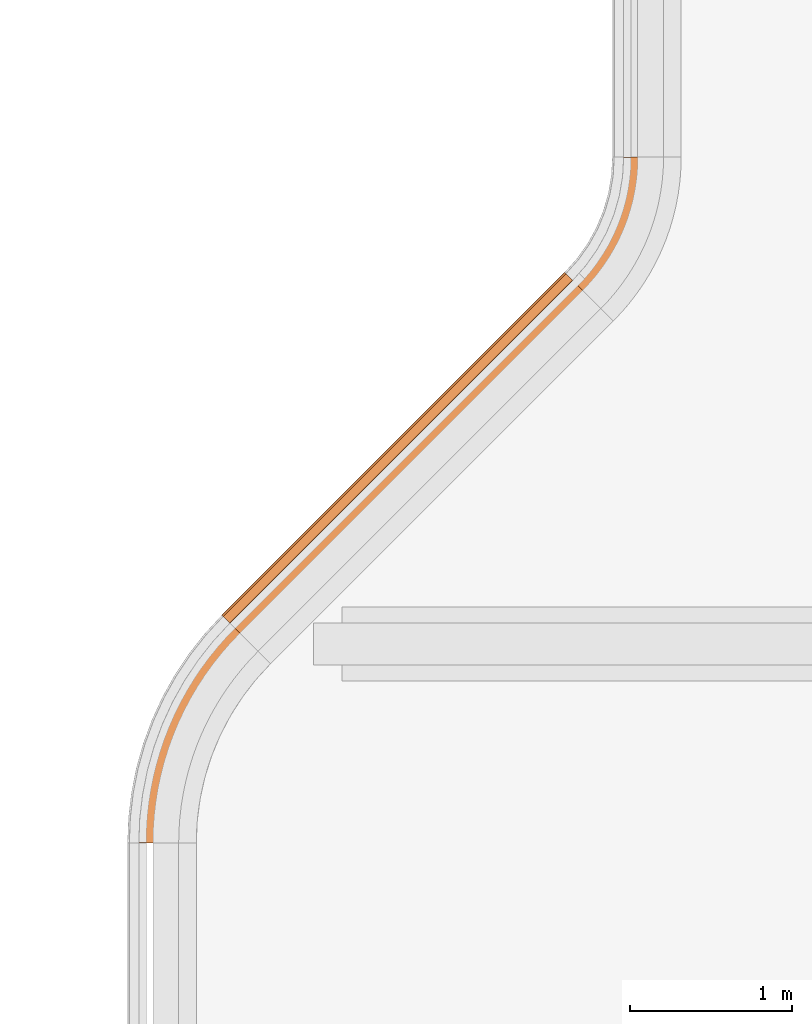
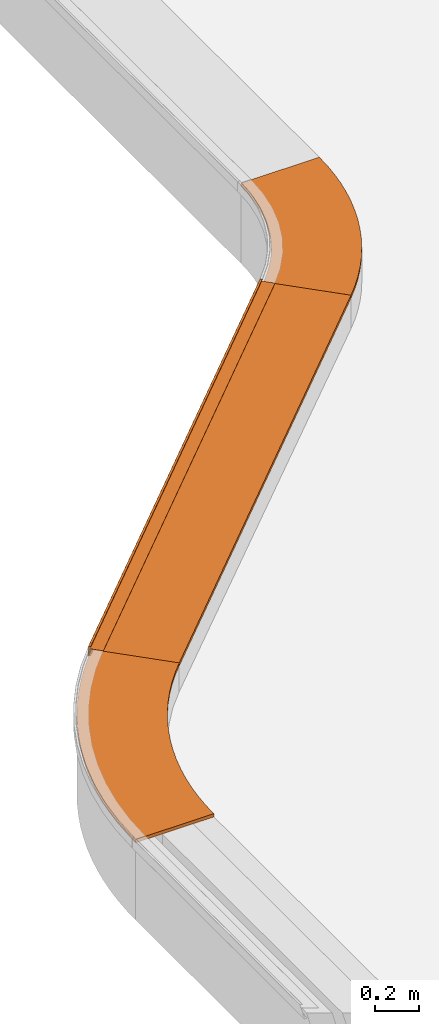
# One storey, part 95 of 128: 5 proxies.
"""IFC2X3 building model written with IfcOpenShell, lengths in millimetres."""

from ifc_helpers import new_model, entity, si_unit, converted_unit, derived_unit, direction, frame, frame_2d, origin, place, context, subcontext, project, spatial, polyline, circle_curve, parameter, trimmed, segment, composite_curve, rectangle, outline, extrude, source, transform, mapped, material, type_object, type_shapes, element, save


model = new_model("IFC2X3")

# Units and contexts
model_context = context("Model", 3, precision=0.01, world=origin(), true_north=direction((6.123031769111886e-17, 1.0)))
body_context = subcontext(model_context, "Body", "Model", "MODEL_VIEW")
ifc_project = project(units=[si_unit("LENGTHUNIT", "METRE", prefix="MILLI"), si_unit("AREAUNIT", "SQUARE_METRE"), si_unit("VOLUMEUNIT", "CUBIC_METRE"), converted_unit("PLANEANGLEUNIT", "DEGREE", entity("IfcRatioMeasure", 0.017453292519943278), si_unit("PLANEANGLEUNIT", "RADIAN"), dimensions=[0, 0, 0, 0, 0, 0, 0]), si_unit("MASSUNIT", "GRAM", prefix="KILO"), derived_unit("MASSDENSITYUNIT", [(si_unit("MASSUNIT", "GRAM", prefix="KILO"), 1), (si_unit("LENGTHUNIT", "METRE"), -3)]), derived_unit("IONCONCENTRATIONUNIT", [(si_unit("MASSUNIT", "GRAM", prefix="KILO"), 1), (si_unit("LENGTHUNIT", "METRE"), -3)]), derived_unit("MOMENTOFINERTIAUNIT", [(si_unit("LENGTHUNIT", "METRE"), 4)]), si_unit("TIMEUNIT", "SECOND"), si_unit("FREQUENCYUNIT", "HERTZ"), si_unit("THERMODYNAMICTEMPERATUREUNIT", "DEGREE_CELSIUS"), derived_unit("THERMALTRANSMITTANCEUNIT", [(si_unit("MASSUNIT", "GRAM", prefix="KILO"), 1), (si_unit("THERMODYNAMICTEMPERATUREUNIT", "KELVIN"), -1), (si_unit("TIMEUNIT", "SECOND"), -3)]), derived_unit("THERMALCONDUCTANCEUNIT", [(si_unit("MASSUNIT", "GRAM", prefix="KILO"), 1), (si_unit("THERMODYNAMICTEMPERATUREUNIT", "KELVIN"), -1), (si_unit("TIMEUNIT", "SECOND"), -3), (si_unit("LENGTHUNIT", "METRE"), 1)]), derived_unit("VOLUMETRICFLOWRATEUNIT", [(si_unit("LENGTHUNIT", "METRE"), 3), (si_unit("TIMEUNIT", "SECOND"), -1)]), derived_unit("MASSFLOWRATEUNIT", [(si_unit("MASSUNIT", "GRAM", prefix="KILO"), 1), (si_unit("TIMEUNIT", "SECOND"), -1)]), derived_unit("ROTATIONALFREQUENCYUNIT", [(si_unit("TIMEUNIT", "SECOND"), -1)]), si_unit("ELECTRICCURRENTUNIT", "AMPERE"), si_unit("ELECTRICVOLTAGEUNIT", "VOLT"), si_unit("POWERUNIT", "WATT"), si_unit("FORCEUNIT", "NEWTON", prefix="KILO"), si_unit("ILLUMINANCEUNIT", "LUX"), si_unit("LUMINOUSFLUXUNIT", "LUMEN"), si_unit("LUMINOUSINTENSITYUNIT", "CANDELA"), derived_unit("USERDEFINED", [(si_unit("MASSUNIT", "GRAM", prefix="KILO"), -1), (si_unit("LENGTHUNIT", "METRE"), -2), (si_unit("TIMEUNIT", "SECOND"), 3), (si_unit("LUMINOUSFLUXUNIT", "LUMEN"), 1)]), derived_unit("USERDEFINED", [(si_unit("MASSUNIT", "GRAM", prefix="KILO"), 1), (si_unit("TIMEUNIT", "SECOND"), -3), (si_unit("LENGTHUNIT", "METRE"), 3), (si_unit("ELECTRICCURRENTUNIT", "AMPERE"), -2)]), derived_unit("SOUNDPOWERUNIT", [(si_unit("MASSUNIT", "GRAM", prefix="KILO"), 1), (si_unit("TIMEUNIT", "SECOND"), -3), (si_unit("LENGTHUNIT", "METRE"), 2)]), derived_unit("SOUNDPRESSUREUNIT", [(si_unit("MASSUNIT", "GRAM", prefix="KILO"), 1), (si_unit("LENGTHUNIT", "METRE"), -1), (si_unit("TIMEUNIT", "SECOND"), -2)]), derived_unit("LINEARVELOCITYUNIT", [(si_unit("LENGTHUNIT", "METRE"), 1), (si_unit("TIMEUNIT", "SECOND"), -1)]), si_unit("PRESSUREUNIT", "PASCAL"), derived_unit("USERDEFINED", [(si_unit("MASSUNIT", "GRAM", prefix="KILO"), 1), (si_unit("LENGTHUNIT", "METRE"), -2), (si_unit("TIMEUNIT", "SECOND"), -2)]), derived_unit("LINEARFORCEUNIT", [(si_unit("MASSUNIT", "GRAM", prefix="KILO"), 1), (si_unit("TIMEUNIT", "SECOND"), -2)]), derived_unit("PLANARFORCEUNIT", [(si_unit("MASSUNIT", "GRAM", prefix="KILO"), 1), (si_unit("LENGTHUNIT", "METRE"), -1), (si_unit("TIMEUNIT", "SECOND"), -2)]), derived_unit("SPECIFICHEATCAPACITYUNIT", [(si_unit("THERMODYNAMICTEMPERATUREUNIT", "KELVIN"), -1), (si_unit("LENGTHUNIT", "METRE"), 2), (si_unit("TIMEUNIT", "SECOND"), -2)]), derived_unit("HEATINGVALUEUNIT", [(si_unit("LENGTHUNIT", "METRE"), 2), (si_unit("TIMEUNIT", "SECOND"), -2)]), derived_unit("VAPORPERMEABILITYUNIT", [(si_unit("LENGTHUNIT", "METRE"), -1), (si_unit("TIMEUNIT", "SECOND"), 1)]), derived_unit("DYNAMICVISCOSITYUNIT", [(si_unit("MASSUNIT", "GRAM", prefix="KILO"), 1), (si_unit("TIMEUNIT", "SECOND"), -1), (si_unit("LENGTHUNIT", "METRE"), -1)]), derived_unit("THERMALEXPANSIONCOEFFICIENTUNIT", [(si_unit("THERMODYNAMICTEMPERATUREUNIT", "KELVIN"), -1)]), derived_unit("MODULUSOFELASTICITYUNIT", [(si_unit("MASSUNIT", "GRAM", prefix="KILO"), 1), (si_unit("LENGTHUNIT", "METRE"), -1), (si_unit("TIMEUNIT", "SECOND"), -2)]), derived_unit("ISOTHERMALMOISTURECAPACITYUNIT", [(si_unit("LENGTHUNIT", "METRE"), 3), (si_unit("MASSUNIT", "GRAM", prefix="KILO"), -1)]), derived_unit("MOISTUREDIFFUSIVITYUNIT", [(si_unit("TIMEUNIT", "SECOND"), -1), (si_unit("LENGTHUNIT", "METRE"), 2)])], contexts=[model_context])

# Site, building, storey
site_placement = place(None, frame((0.0, 300.0, 0.0)))
site = spatial("IfcSite", under=ifc_project, at=site_placement, Name="<Kadastrale nummers>", CompositionType="ELEMENT")
building_placement = place(site_placement, origin())
building = spatial("IfcBuilding", under=site, at=building_placement, CompositionType="ELEMENT")
storey_placement = place(building_placement, frame((0.0, 0.0, 3560.0000331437)))
storey = spatial("IfcBuildingStorey", under=building, at=storey_placement, Name="01 eerste verdieping", CompositionType="ELEMENT", Elevation=3560.0000331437)

# Proxies
ifc_material_1 = material(Name="ISR_Multiplex")
building_element_proxy_type_1 = type_object("IfcBuildingElementProxyType", Name="NLRS_42_GM_WBP_plaat_gebogen:18x430", PredefinedType="NOTDEFINED", material=ifc_material_1)
shared_shape_1 = source(origin(), body_context, "Body", "SweptSolid", [
    extrude(outline(composite_curve([segment(polyline([(-463.78372195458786, -625.9662780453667), (-54.78372195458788, -625.966278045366)]), True, "CONTINUOUS"), segment(trimmed(circle_curve(frame_2d((1511.216278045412, -625.9662780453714), x_axis=(-0.7071067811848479, 0.7071067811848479)), 1565.9999999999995), [parameter(0.0)], [parameter(44.999999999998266)], True, "PARAMETER"), False, "CONTINUOUS"), segment(polyline([(403.8870587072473, 481.36294129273), (114.68038520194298, 770.569614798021)]), True, "CONTINUOUS"), segment(trimmed(circle_curve(frame_2d((1511.216278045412, -625.9662780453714), x_axis=(-0.7071067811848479, 0.7071067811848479)), 1975.0000000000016), [parameter(0.0)], [parameter(44.999999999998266)], True, "PARAMETER"), True, "CONTINUOUS")], self_intersect=False)), frame((28888.820638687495, 30295.22875985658, 4075.0)), (0.0, 0.0, 1.0), 18.000000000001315),
])
type_shapes(building_element_proxy_type_1, [shared_shape_1])
proxy_1_placement = place(storey_placement, frame((0.0, 0.0, -3560.0000331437)))
element("IfcBuildingElementProxy", 1, at=proxy_1_placement, inside=storey, type_object=building_element_proxy_type_1, material=ifc_material_1, Name="NLRS_42_GM_WBP_plaat_gebogen:18x430", ObjectType="NLRS_42_GM_WBP_plaat_gebogen:18x430", context=body_context, shape_type="MappedRepresentation", body=[
    mapped(shared_shape_1, transform((0.0, 0.0, 0.0), scale=1.0)),
])
building_element_proxy_type_2 = type_object("IfcBuildingElementProxyType", Name="NLRS_42_GM_WBP_plaat:18x409", PredefinedType="NOTDEFINED", material=ifc_material_1)
shared_shape_2 = source(origin(), body_context, "Body", "SweptSolid", [
    extrude(rectangle(XDim=2999.9999999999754, YDim=408.9999999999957, at=frame_2d((1.5916157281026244e-12, 1.5631940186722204e-12), x_axis=(1.0, 0.0))), frame((30208.764532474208, 31981.85520962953, 4075.0), z_axis=(0.0, 0.0, 1.0), x_axis=(-0.707106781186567, -0.707106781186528, 0.0)), (0.0, 0.0, 1.0), 18.000000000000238),
])
type_shapes(building_element_proxy_type_2, [shared_shape_2])
proxy_2_placement = place(storey_placement, frame((0.0, 0.0, -3560.0000331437)))
element("IfcBuildingElementProxy", 2, at=proxy_2_placement, inside=storey, type_object=building_element_proxy_type_2, material=ifc_material_1, Name="NLRS_42_GM_WBP_plaat:18x409", ObjectType="NLRS_42_GM_WBP_plaat:18x409", context=body_context, shape_type="MappedRepresentation", body=[
    mapped(shared_shape_2, transform((0.0, 0.0, 0.0), scale=1.0)),
])
building_element_proxy_type_3 = type_object("IfcBuildingElementProxyType", Name="NLRS_42_GM_WBP_plaat_gebogen:18x430", PredefinedType="NOTDEFINED", material=ifc_material_1)
shared_shape_3 = source(origin(), body_context, "Body", "SweptSolid", [
    extrude(outline(composite_curve([segment(trimmed(circle_curve(frame_2d((-1049.4438937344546, -434.6938937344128), x_axis=(1.0, 0.0)), 1434.0000000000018), [parameter(0.0)], [parameter(44.99999999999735)], True, "PARAMETER"), True, "CONTINUOUS"), segment(polyline([(-35.452769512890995, 579.2972304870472), (-324.65944301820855, 290.0905569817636)]), True, "CONTINUOUS"), segment(trimmed(circle_curve(frame_2d((-1049.4438937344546, -434.6938937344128), x_axis=(1.0, 0.0)), 1024.9999999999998), [parameter(0.0)], [parameter(44.99999999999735)], True, "PARAMETER"), False, "CONTINUOUS"), segment(polyline([(-24.443893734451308, -434.6938937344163), (384.5561062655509, -434.69389373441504)]), True, "CONTINUOUS")], self_intersect=False)), frame((31449.443893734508, 33477.209275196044, 4075.0), z_axis=(0.0, 0.0, 1.0), x_axis=(0.7071067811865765, -0.7071067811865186, 0.0)), (0.0, 0.0, 1.0), 18.00000000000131),
])
type_shapes(building_element_proxy_type_3, [shared_shape_3])
proxy_3_placement = place(storey_placement, frame((0.0, 0.0, -3560.0000331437)))
element("IfcBuildingElementProxy", 3, at=proxy_3_placement, inside=storey, type_object=building_element_proxy_type_3, material=ifc_material_1, Name="NLRS_42_GM_WBP_plaat_gebogen:18x430", ObjectType="NLRS_42_GM_WBP_plaat_gebogen:18x430", context=body_context, shape_type="MappedRepresentation", body=[
    mapped(shared_shape_3, transform((0.0, 0.0, 0.0), scale=1.0)),
])
ifc_material_2 = material(Name="STAAL_RAL 7006")
building_element_proxy_type_4 = type_object("IfcBuildingElementProxyType", Name="NLRS_42_GM_WPB_dakrand_gen_ISR:dakrand_gen", PredefinedType="NOTDEFINED", material=ifc_material_2)
shared_shape_4 = source(origin(), body_context, "Body", "SweptSolid", [
    extrude(outline(composite_curve([segment(trimmed(circle_curve(frame_2d((14.558406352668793, -7.057262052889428), x_axis=(-1.0, 0.0)), 1.0000000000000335), [parameter(359.9999999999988)], [parameter(89.99999999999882)], True, "PARAMETER"), False, "CONTINUOUS"), segment(polyline([(13.558406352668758, -7.057262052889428), (13.558406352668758, 55.442737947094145)]), True, "CONTINUOUS"), segment(polyline([(13.558406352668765, 55.44273794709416), (12.55840635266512, 59.942737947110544)]), True, "CONTINUOUS"), segment(trimmed(circle_curve(frame_2d((12.05840635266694, 59.94273794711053), x_axis=(-1.0, 0.0)), 0.499999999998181), [parameter(180.00000000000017)], [parameter(0.0)], True, "PARAMETER"), True, "CONTINUOUS"), segment(polyline([(11.558406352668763, 59.94273794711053), (11.558406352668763, -2.057262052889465)]), True, "CONTINUOUS"), segment(trimmed(circle_curve(frame_2d((10.558406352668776, -2.0572620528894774), x_axis=(0.0, -1.0)), 0.9999999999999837), [parameter(1.8828883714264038e-12)], [parameter(90.00000000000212)], True, "PARAMETER"), False, "CONTINUOUS"), segment(polyline([(10.55840635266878, -3.0572620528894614), (9.558406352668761, -3.0572620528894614)]), True, "CONTINUOUS"), segment(trimmed(circle_curve(frame_2d((9.55840635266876, -4.057262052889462), x_axis=(0.0, -1.0)), 1.0), [parameter(180.00000000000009)], [parameter(359.9999999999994)], True, "PARAMETER"), True, "CONTINUOUS"), segment(polyline([(9.558406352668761, -5.057262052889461), (10.558406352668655, -5.057262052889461)]), True, "CONTINUOUS"), segment(trimmed(circle_curve(frame_2d((10.558406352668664, -6.057262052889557), x_axis=(1.0, 0.0)), 1.0000000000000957), [parameter(359.9999999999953)], [parameter(89.99999999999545)], True, "PARAMETER"), False, "CONTINUOUS"), segment(polyline([(11.558406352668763, -6.057262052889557), (11.558406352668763, -7.057262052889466)]), True, "CONTINUOUS"), segment(trimmed(circle_curve(frame_2d((10.558406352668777, -7.057262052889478), x_axis=(0.0, -1.0)), 0.999999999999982), [parameter(1.3739996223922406e-12)], [parameter(90.00000000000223)], True, "PARAMETER"), False, "CONTINUOUS"), segment(polyline([(10.558406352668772, -8.057262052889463), (-12.441593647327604, -8.057262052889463)]), True, "CONTINUOUS"), segment(trimmed(circle_curve(frame_2d((-12.441593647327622, -7.057262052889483), x_axis=(-1.0, 0.0)), 0.9999999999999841), [parameter(1.8828883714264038e-12)], [parameter(90.00000000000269)], True, "PARAMETER"), False, "CONTINUOUS"), segment(polyline([(-13.441593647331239, -7.057262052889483), (-13.441593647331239, -6.0572620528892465)]), True, "CONTINUOUS"), segment(trimmed(circle_curve(frame_2d((-12.44159364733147, -6.057262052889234), x_axis=(0.0, 1.0)), 0.9999999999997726), [parameter(1.353644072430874e-11)], [parameter(90.00000000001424)], True, "PARAMETER"), False, "CONTINUOUS"), segment(polyline([(-12.441593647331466, -5.057262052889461), (-11.441593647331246, -5.057262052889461)]), True, "CONTINUOUS"), segment(trimmed(circle_curve(frame_2d((-11.441593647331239, -4.057262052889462), x_axis=(0.0, 1.0)), 1.0), [parameter(179.99999999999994)], [parameter(359.9999999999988)], True, "PARAMETER"), True, "CONTINUOUS"), segment(polyline([(-11.441593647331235, -3.0572620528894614), (-14.441593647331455, -3.0572620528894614)]), True, "CONTINUOUS"), segment(trimmed(circle_curve(frame_2d((-14.441593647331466, -4.057262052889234), x_axis=(-1.0, 0.0)), 0.9999999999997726), [parameter(269.9999999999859)], [parameter(359.99999999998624)], True, "PARAMETER"), True, "CONTINUOUS"), segment(polyline([(-15.4415936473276, -4.057262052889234), (-15.4415936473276, -7.057262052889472)]), True, "CONTINUOUS"), segment(trimmed(circle_curve(frame_2d((-16.441593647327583, -7.0572620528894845), x_axis=(0.0, -1.0)), 0.9999999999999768), [parameter(2.1882216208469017e-12)], [parameter(90.00000000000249)], True, "PARAMETER"), False, "CONTINUOUS"), segment(polyline([(-16.44159364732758, -8.057262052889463), (-25.5319175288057, -8.057262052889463)]), True, "CONTINUOUS"), segment(trimmed(circle_curve(frame_2d((-25.531917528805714, -7.057262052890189), x_axis=(-0.9659258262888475, 0.2588190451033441)), 0.999999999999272), [parameter(7.394153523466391e-11)], [parameter(105.00000000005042)], True, "PARAMETER"), False, "CONTINUOUS"), segment(polyline([(-26.49784335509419, -6.798443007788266), (-24.494754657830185, 0.6771857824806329)]), True, "CONTINUOUS"), segment(trimmed(circle_curve(frame_2d((-25.460680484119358, 0.9360048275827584), x_axis=(-0.9659258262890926, 0.2588190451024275)), 1.0000000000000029), [parameter(180.0000000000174)], [parameter(8.142219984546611e-12)], True, "PARAMETER"), True, "CONTINUOUS"), segment(polyline([(-26.426606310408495, 1.1948238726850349), (-29.104294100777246, -8.79844300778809)]), True, "CONTINUOUS"), segment(trimmed(circle_curve(frame_2d((-28.138368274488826, -9.05726205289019), x_axis=(0.0, -1.0)), 0.9999999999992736), [parameter(255.000000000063)], [parameter(4.8700653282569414e-11)], True, "PARAMETER"), True, "CONTINUOUS"), segment(polyline([(-28.138368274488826, -10.057262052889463), (24.558406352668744, -10.057262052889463)]), True, "CONTINUOUS"), segment(trimmed(circle_curve(frame_2d((24.55840635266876, -9.057262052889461), x_axis=(1.0, 0.0)), 0.999999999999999), [parameter(269.9999999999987)], [parameter(359.99999999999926)], True, "PARAMETER"), True, "CONTINUOUS"), segment(polyline([(25.55840635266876, -9.057262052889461), (25.55840635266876, 0.9427379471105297)]), True, "CONTINUOUS"), segment(trimmed(circle_curve(frame_2d((24.55840635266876, 0.9427379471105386), x_axis=(-1.0, 0.0)), 1.000000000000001), [parameter(179.99999999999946)], [parameter(359.99999999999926)], True, "PARAMETER"), True, "CONTINUOUS"), segment(polyline([(23.55840635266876, 0.9427379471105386), (23.55840635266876, -7.057262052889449)]), True, "CONTINUOUS"), segment(trimmed(circle_curve(frame_2d((22.55840635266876, -7.057262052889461), x_axis=(0.0, -1.0)), 1.0), [parameter(2.544443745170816e-13)], [parameter(90.00000000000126)], True, "PARAMETER"), False, "CONTINUOUS"), segment(polyline([(22.55840635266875, -8.057262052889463), (14.558406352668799, -8.057262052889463)]), True, "CONTINUOUS")], self_intersect=False)), frame((-1500.0, 10.05726205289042, -11.558406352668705), z_axis=(-1.0, 0.0, 0.0), x_axis=(0.0, 0.0, 1.0)), (0.0, 0.0, -1.0), 2999.999999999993),
])
type_shapes(building_element_proxy_type_4, [shared_shape_4])
for number, where, z_axis, x_axis, name in (
    (4, (30052.140380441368, 32138.479361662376, 532.9999668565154), (0.0, 0.0, 1.0), (-0.7071067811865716, -0.7071067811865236, 0.0), "NLRS_42_GM_WPB_dakrand_gen_ISR:dakrand_gen"),
    (5, (30052.140380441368, 32138.479361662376, 532.9999668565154), (0.0, 0.0, 1.0), (-0.7071067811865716, -0.7071067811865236, 0.0), "NLRS_42_GM_WPB_dakrand_gen_ISR:dakrand_gen"),
):
    element("IfcBuildingElementProxy", number, at=place(storey_placement, frame(where, z_axis=z_axis, x_axis=x_axis)), inside=storey, type_object=building_element_proxy_type_4, material=ifc_material_2, Name=name, ObjectType="NLRS_42_GM_WPB_dakrand_gen_ISR:dakrand_gen", context=body_context, shape_type="MappedRepresentation", body=[
        mapped(shared_shape_4, transform((0.0, 0.0, 0.0), scale=1.0)),
    ])

save(model, "model.ifc")
